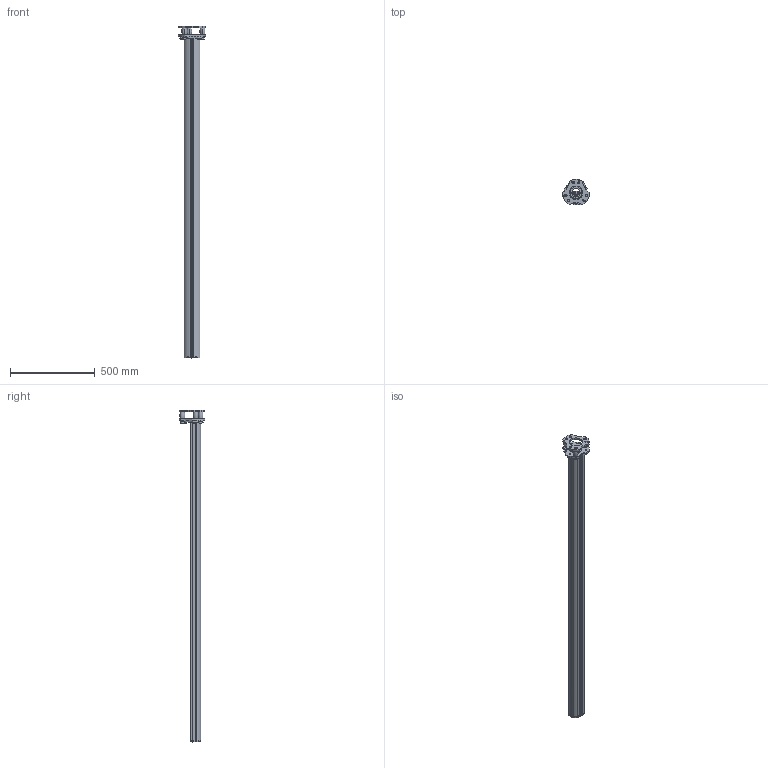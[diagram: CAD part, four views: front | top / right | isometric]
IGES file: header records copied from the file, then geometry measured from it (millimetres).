
Global section: file name: No Iges File Name specified; native system: Autodesk Inventor 2009; preprocessor: AutoDesk Inventor Iges Exporter R2009; author: seisen; date: 20120711.102840; units: millimetre
Bounding box: 160 x 150.44 x 1959.98 mm (x, y, z)
Volume: 2922480.4 mm3; surface area: 2137126.6 mm2
Topology: 22 solids, 23 shells, 503 faces, 1295 edges, 852 vertices
Faces by surface type: plane 172, revolution 119, bspline 87, cylinder 86, cone 32, torus 7
